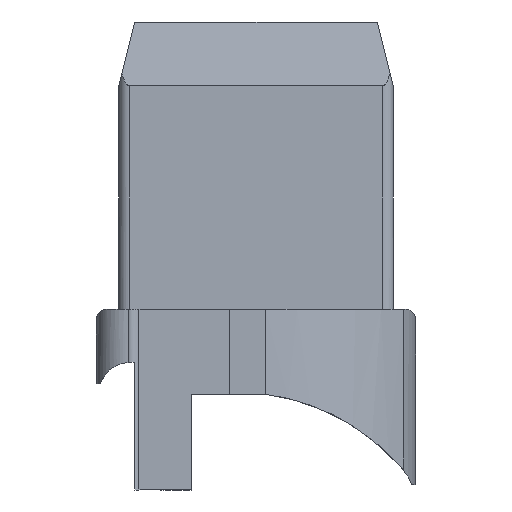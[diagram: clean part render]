
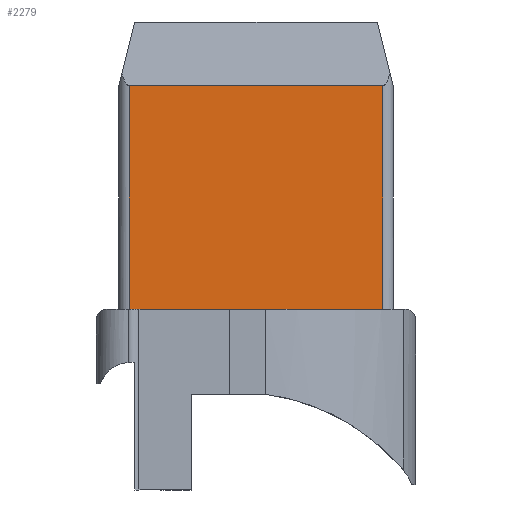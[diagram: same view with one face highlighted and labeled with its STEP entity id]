
A CAD part, front view. The second image highlights one B-rep face of the part: STEP entity #2279.
In plain terms, the highlighted planar face has unit normal (0, -1, 0).
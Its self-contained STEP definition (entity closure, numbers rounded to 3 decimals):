
#40 = VECTOR ( 'NONE', #897, 1000. ) ;
#90 = EDGE_CURVE ( 'NONE', #1937, #2059, #711, .T. ) ;
#126 = ORIENTED_EDGE ( 'NONE', *, *, #1201, .T. ) ;
#161 = DIRECTION ( 'NONE',  ( 0., -1., 0. ) ) ;
#171 = AXIS2_PLACEMENT_3D ( 'NONE', #562, #161, #1551 ) ;
#270 = FACE_OUTER_BOUND ( 'NONE', #859, .T. ) ;
#486 = CARTESIAN_POINT ( 'NONE',  ( -26.9, -12.9, 21. ) ) ;
#507 = VECTOR ( 'NONE', #2424, 1000. ) ;
#562 = CARTESIAN_POINT ( 'NONE',  ( 0., -12.9, 27. ) ) ;
#574 = LINE ( 'NONE', #2165, #2087 ) ;
#611 = VERTEX_POINT ( 'NONE', #856 ) ;
#711 = LINE ( 'NONE', #1514, #40 ) ;
#856 = CARTESIAN_POINT ( 'NONE',  ( -3.1, -12.9, 0. ) ) ;
#859 = EDGE_LOOP ( 'NONE', ( #2302, #2045, #126, #1841 ) ) ;
#897 = DIRECTION ( 'NONE',  ( -1., 0., 0. ) ) ;
#1046 = LINE ( 'NONE', #1110, #2043 ) ;
#1084 = LINE ( 'NONE', #2567, #507 ) ;
#1110 = CARTESIAN_POINT ( 'NONE',  ( 0., -12.9, 0. ) ) ;
#1176 = CARTESIAN_POINT ( 'NONE',  ( -3.1, -12.9, 21. ) ) ;
#1201 = EDGE_CURVE ( 'NONE', #2059, #1419, #574, .T. ) ;
#1209 = EDGE_CURVE ( 'NONE', #1937, #611, #1084, .T. ) ;
#1324 = DIRECTION ( 'NONE',  ( -1., 0., 0. ) ) ;
#1364 = PLANE ( 'NONE',  #171 ) ;
#1419 = VERTEX_POINT ( 'NONE', #2132 ) ;
#1514 = CARTESIAN_POINT ( 'NONE',  ( 0., -12.9, 21. ) ) ;
#1551 = DIRECTION ( 'NONE',  ( 0., 0., -1. ) ) ;
#1841 = ORIENTED_EDGE ( 'NONE', *, *, #2143, .F. ) ;
#1937 = VERTEX_POINT ( 'NONE', #1176 ) ;
#2043 = VECTOR ( 'NONE', #1324, 1000. ) ;
#2045 = ORIENTED_EDGE ( 'NONE', *, *, #90, .T. ) ;
#2059 = VERTEX_POINT ( 'NONE', #486 ) ;
#2087 = VECTOR ( 'NONE', #2549, 1000. ) ;
#2132 = CARTESIAN_POINT ( 'NONE',  ( -26.9, -12.9, 0. ) ) ;
#2143 = EDGE_CURVE ( 'NONE', #611, #1419, #1046, .T. ) ;
#2165 = CARTESIAN_POINT ( 'NONE',  ( -26.9, -12.9, 27. ) ) ;
#2279 = ADVANCED_FACE ( 'NONE', ( #270 ), #1364, .T. ) ;
#2302 = ORIENTED_EDGE ( 'NONE', *, *, #1209, .F. ) ;
#2424 = DIRECTION ( 'NONE',  ( 0., 0., -1. ) ) ;
#2549 = DIRECTION ( 'NONE',  ( 0., 0., -1. ) ) ;
#2567 = CARTESIAN_POINT ( 'NONE',  ( -3.1, -12.9, 27. ) ) ;
